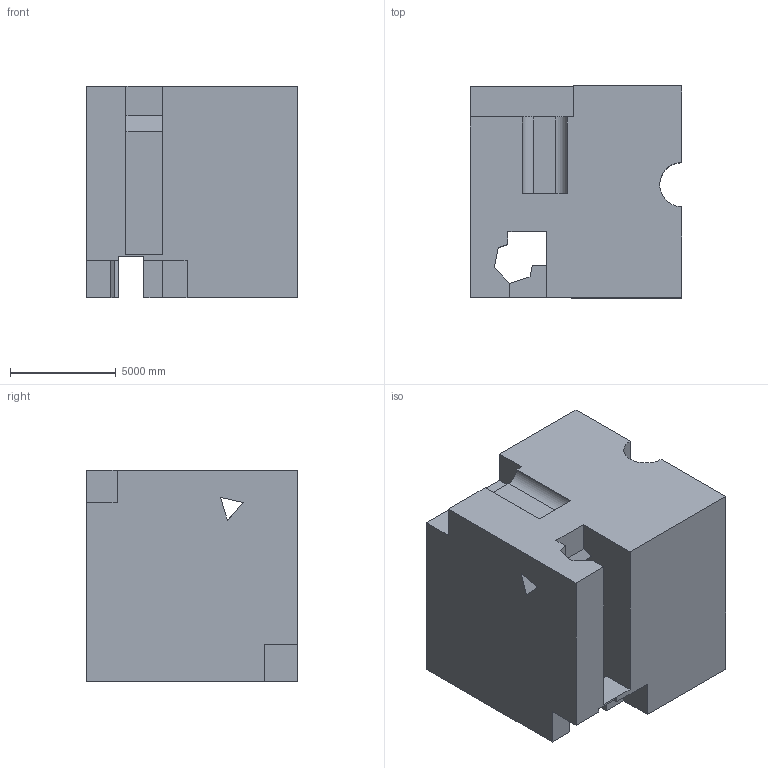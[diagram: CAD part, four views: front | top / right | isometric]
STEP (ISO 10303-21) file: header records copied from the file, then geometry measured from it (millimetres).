
FILE_DESCRIPTION (( 'STEP AP203' ), '1' );
FILE_NAME ('877.STEP', '2022-08-05T15:23:33', ( 'user' ), ( '' ), 'SwSTEP 2.0', 'SolidWorks 2021', '' );
FILE_SCHEMA (( 'CONFIG_CONTROL_DESIGN' ));
Length unit declared in the file: centimetre
Products named in the file (1): 877
Bounding box: 10000 x 10000 x 10000 mm (x, y, z)
Volume: 875233238006.9 mm3; surface area: 715435514.2 mm2
Topology: 1 solids, 1 shells, 42 faces, 131 edges, 87 vertices
Faces by surface type: plane 39, cylinder 3
Entity records: 1522 total; most frequent: ORIENTED_EDGE 262, CARTESIAN_POINT 261, DIRECTION 223, EDGE_CURVE 131, LINE 125, VECTOR 125, VERTEX_POINT 87, AXIS2_PLACEMENT_3D 49
